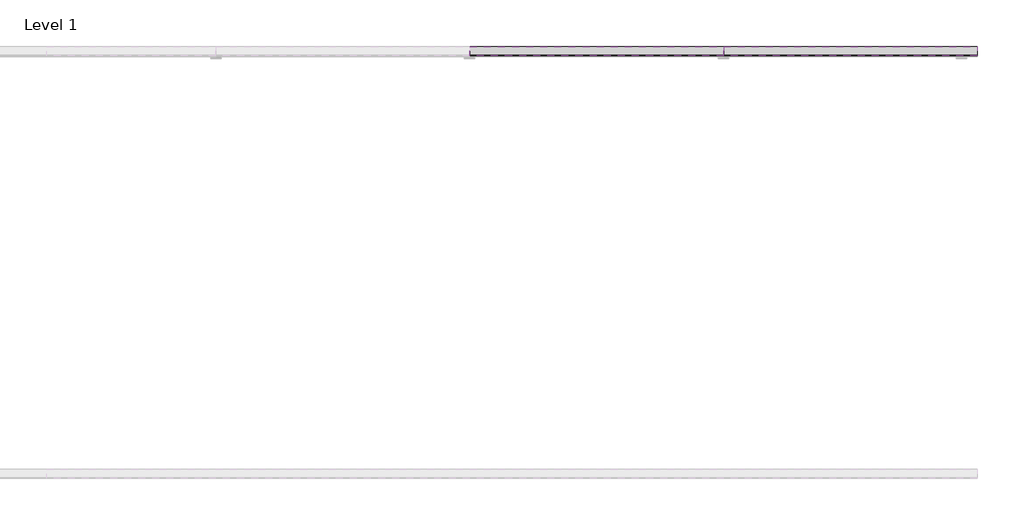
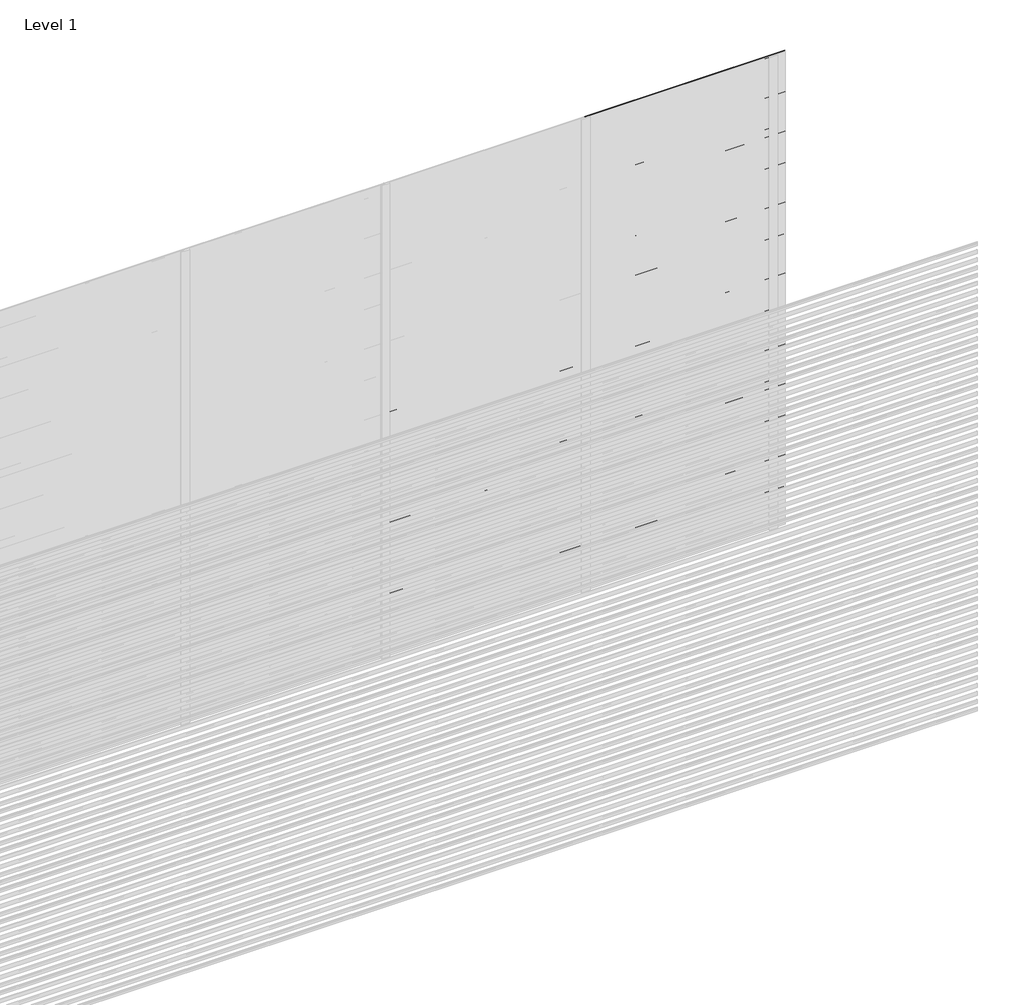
# One storey, part 16 of 16: 96 proxies.
"""IFC4 building model written with IfcOpenShell, lengths in millimetres."""

from ifc_helpers import new_model, si_unit, frame, origin, place, context, project, spatial, polyline, outline, extrude, element, save

model = new_model("IFC4")

# Units and contexts
model_context = context("Model", 3, world=origin())
ifc_project = project(units=[si_unit("LENGTHUNIT", "METRE", prefix="MILLI")], contexts=[model_context])

# Site, building, storey
site = spatial("IfcSite", under=ifc_project)
building = spatial("IfcBuilding", under=site)
storey = spatial("IfcBuildingStorey", under=building, Name="Level 1", Elevation=0.0)

# Proxies
placement = place(None, origin())
element("IfcBuildingElementProxy", 1, Name="Wall Sweeps", at=placement, inside=storey, context=model_context, shape_type="SweptSolid", body=[
    extrude(outline(polyline([(5.0, 1800.0), (5.0, 1789.6352854), (46.0, 1765.0), (46.0, 1750.0), (3.0, 1775.8370066), (3.0, 1800.0), (5.0, 1800.0)])), frame((3600.0, 0.0, 0.0), z_axis=(1.0, 0.0, 0.0), x_axis=(0.0, 1.0, 0.0)), (0.0, 0.0, 1.0), 1200.0),
])
element("IfcBuildingElementProxy", 2, Name="Wall Sweeps", at=placement, inside=storey, context=model_context, shape_type="SweptSolid", body=[
    extrude(outline(polyline([(5.0, 1750.0), (5.0, 1739.6352854), (46.0, 1715.0), (46.0, 1700.0), (3.0, 1725.8370066), (3.0, 1750.0), (5.0, 1750.0)])), frame((3600.0, 0.0, 0.0), z_axis=(1.0, 0.0, 0.0), x_axis=(0.0, 1.0, 0.0)), (0.0, 0.0, 1.0), 1200.0),
])
element("IfcBuildingElementProxy", 3, Name="Wall Sweeps", at=placement, inside=storey, context=model_context, shape_type="SweptSolid", body=[
    extrude(outline(polyline([(5.0, 1700.0), (5.0, 1689.6352854), (46.0, 1665.0), (46.0, 1650.0), (3.0, 1675.8370066), (3.0, 1700.0), (5.0, 1700.0)])), frame((3600.0, 0.0, 0.0), z_axis=(1.0, 0.0, 0.0), x_axis=(0.0, 1.0, 0.0)), (0.0, 0.0, 1.0), 1200.0),
])
element("IfcBuildingElementProxy", 4, Name="Wall Sweeps", at=placement, inside=storey, context=model_context, shape_type="SweptSolid", body=[
    extrude(outline(polyline([(5.0, 1650.0), (5.0, 1639.6352854), (46.0, 1615.0), (46.0, 1600.0), (3.0, 1625.8370066), (3.0, 1650.0), (5.0, 1650.0)])), frame((3600.0, 0.0, 0.0), z_axis=(1.0, 0.0, 0.0), x_axis=(0.0, 1.0, 0.0)), (0.0, 0.0, 1.0), 1200.0),
])
element("IfcBuildingElementProxy", 5, Name="Wall Sweeps", at=placement, inside=storey, context=model_context, shape_type="SweptSolid", body=[
    extrude(outline(polyline([(5.0, 1600.0), (5.0, 1589.6352854), (46.0, 1565.0), (46.0, 1550.0), (3.0, 1575.8370066), (3.0, 1600.0), (5.0, 1600.0)])), frame((3600.0, 0.0, 0.0), z_axis=(1.0, 0.0, 0.0), x_axis=(0.0, 1.0, 0.0)), (0.0, 0.0, 1.0), 1200.0),
])
element("IfcBuildingElementProxy", 6, Name="Wall Sweeps", at=placement, inside=storey, context=model_context, shape_type="SweptSolid", body=[
    extrude(outline(polyline([(5.0, 1550.0), (5.0, 1539.6352854), (46.0, 1515.0), (46.0, 1500.0), (3.0, 1525.8370066), (3.0, 1550.0), (5.0, 1550.0)])), frame((3600.0, 0.0, 0.0), z_axis=(1.0, 0.0, 0.0), x_axis=(0.0, 1.0, 0.0)), (0.0, 0.0, 1.0), 1200.0),
])
element("IfcBuildingElementProxy", 7, Name="Wall Sweeps", at=placement, inside=storey, context=model_context, shape_type="SweptSolid", body=[
    extrude(outline(polyline([(5.0, 1500.0), (5.0, 1489.6352854), (46.0, 1465.0), (46.0, 1450.0), (3.0, 1475.8370066), (3.0, 1500.0), (5.0, 1500.0)])), frame((3600.0, 0.0, 0.0), z_axis=(1.0, 0.0, 0.0), x_axis=(0.0, 1.0, 0.0)), (0.0, 0.0, 1.0), 1200.0),
])
element("IfcBuildingElementProxy", 8, Name="Wall Sweeps", at=placement, inside=storey, context=model_context, shape_type="SweptSolid", body=[
    extrude(outline(polyline([(5.0, 1450.0), (5.0, 1439.6352854), (46.0, 1415.0), (46.0, 1400.0), (3.0, 1425.8370066), (3.0, 1450.0), (5.0, 1450.0)])), frame((3600.0, 0.0, 0.0), z_axis=(1.0, 0.0, 0.0), x_axis=(0.0, 1.0, 0.0)), (0.0, 0.0, 1.0), 1200.0),
])
element("IfcBuildingElementProxy", 9, Name="Wall Sweeps", at=placement, inside=storey, context=model_context, shape_type="SweptSolid", body=[
    extrude(outline(polyline([(5.0, 1400.0), (5.0, 1389.6352854), (46.0, 1365.0), (46.0, 1350.0), (3.0, 1375.8370066), (3.0, 1400.0), (5.0, 1400.0)])), frame((3600.0, 0.0, 0.0), z_axis=(1.0, 0.0, 0.0), x_axis=(0.0, 1.0, 0.0)), (0.0, 0.0, 1.0), 1200.0),
])
element("IfcBuildingElementProxy", 10, Name="Wall Sweeps", at=placement, inside=storey, context=model_context, shape_type="SweptSolid", body=[
    extrude(outline(polyline([(5.0, 1350.0), (5.0, 1339.6352854), (46.0, 1315.0), (46.0, 1300.0), (3.0, 1325.8370066), (3.0, 1350.0), (5.0, 1350.0)])), frame((3600.0, 0.0, 0.0), z_axis=(1.0, 0.0, 0.0), x_axis=(0.0, 1.0, 0.0)), (0.0, 0.0, 1.0), 1200.0),
])
element("IfcBuildingElementProxy", 11, Name="Wall Sweeps", at=placement, inside=storey, context=model_context, shape_type="SweptSolid", body=[
    extrude(outline(polyline([(5.0, 1300.0), (5.0, 1289.6352854), (46.0, 1265.0), (46.0, 1250.0), (3.0, 1275.8370066), (3.0, 1300.0), (5.0, 1300.0)])), frame((3600.0, 0.0, 0.0), z_axis=(1.0, 0.0, 0.0), x_axis=(0.0, 1.0, 0.0)), (0.0, 0.0, 1.0), 1200.0),
])
element("IfcBuildingElementProxy", 12, Name="Wall Sweeps", at=placement, inside=storey, context=model_context, shape_type="SweptSolid", body=[
    extrude(outline(polyline([(5.0, 1250.0), (5.0, 1239.6352854), (46.0, 1215.0), (46.0, 1200.0), (3.0, 1225.8370066), (3.0, 1250.0), (5.0, 1250.0)])), frame((3600.0, 0.0, 0.0), z_axis=(1.0, 0.0, 0.0), x_axis=(0.0, 1.0, 0.0)), (0.0, 0.0, 1.0), 1200.0),
])
element("IfcBuildingElementProxy", 13, Name="Wall Sweeps", at=placement, inside=storey, context=model_context, shape_type="SweptSolid", body=[
    extrude(outline(polyline([(5.0, 1200.0), (5.0, 1189.6352854), (46.0, 1165.0), (46.0, 1150.0), (3.0, 1175.8370066), (3.0, 1200.0), (5.0, 1200.0)])), frame((3600.0, 0.0, 0.0), z_axis=(1.0, 0.0, 0.0), x_axis=(0.0, 1.0, 0.0)), (0.0, 0.0, 1.0), 1200.0),
])
element("IfcBuildingElementProxy", 14, Name="Wall Sweeps", at=placement, inside=storey, context=model_context, shape_type="SweptSolid", body=[
    extrude(outline(polyline([(5.0, 1150.0), (5.0, 1139.6352854), (46.0, 1115.0), (46.0, 1100.0), (3.0, 1125.8370066), (3.0, 1150.0), (5.0, 1150.0)])), frame((3600.0, 0.0, 0.0), z_axis=(1.0, 0.0, 0.0), x_axis=(0.0, 1.0, 0.0)), (0.0, 0.0, 1.0), 1200.0),
])
element("IfcBuildingElementProxy", 15, Name="Wall Sweeps", at=placement, inside=storey, context=model_context, shape_type="SweptSolid", body=[
    extrude(outline(polyline([(5.0, 1100.0), (5.0, 1089.6352854), (46.0, 1065.0), (46.0, 1050.0), (3.0, 1075.8370066), (3.0, 1100.0), (5.0, 1100.0)])), frame((3600.0, 0.0, 0.0), z_axis=(1.0, 0.0, 0.0), x_axis=(0.0, 1.0, 0.0)), (0.0, 0.0, 1.0), 1200.0),
])
element("IfcBuildingElementProxy", 16, Name="Wall Sweeps", at=placement, inside=storey, context=model_context, shape_type="SweptSolid", body=[
    extrude(outline(polyline([(5.0, 1050.0), (5.0, 1039.6352854), (46.0, 1015.0), (46.0, 1000.0), (3.0, 1025.8370066), (3.0, 1050.0), (5.0, 1050.0)])), frame((3600.0, 0.0, 0.0), z_axis=(1.0, 0.0, 0.0), x_axis=(0.0, 1.0, 0.0)), (0.0, 0.0, 1.0), 1200.0),
])
element("IfcBuildingElementProxy", 17, Name="Wall Sweeps", at=placement, inside=storey, context=model_context, shape_type="SweptSolid", body=[
    extrude(outline(polyline([(5.0, 1000.0), (5.0, 989.6352854), (46.0, 965.0), (46.0, 950.0), (3.0, 975.8370066), (3.0, 1000.0), (5.0, 1000.0)])), frame((3600.0, 0.0, 0.0), z_axis=(1.0, 0.0, 0.0), x_axis=(0.0, 1.0, 0.0)), (0.0, 0.0, 1.0), 1200.0),
])
element("IfcBuildingElementProxy", 18, Name="Wall Sweeps", at=placement, inside=storey, context=model_context, shape_type="SweptSolid", body=[
    extrude(outline(polyline([(5.0, 950.0), (5.0, 939.6352854), (46.0, 915.0), (46.0, 900.0), (3.0, 925.8370066), (3.0, 950.0), (5.0, 950.0)])), frame((3600.0, 0.0, 0.0), z_axis=(1.0, 0.0, 0.0), x_axis=(0.0, 1.0, 0.0)), (0.0, 0.0, 1.0), 1200.0),
])
element("IfcBuildingElementProxy", 19, Name="Wall Sweeps", at=placement, inside=storey, context=model_context, shape_type="SweptSolid", body=[
    extrude(outline(polyline([(5.0, 900.0), (5.0, 889.6352854), (46.0, 865.0), (46.0, 850.0), (3.0, 875.8370066), (3.0, 900.0), (5.0, 900.0)])), frame((3600.0, 0.0, 0.0), z_axis=(1.0, 0.0, 0.0), x_axis=(0.0, 1.0, 0.0)), (0.0, 0.0, 1.0), 1200.0),
])
element("IfcBuildingElementProxy", 20, Name="Wall Sweeps", at=placement, inside=storey, context=model_context, shape_type="SweptSolid", body=[
    extrude(outline(polyline([(5.0, 850.0), (5.0, 839.6352854), (46.0, 815.0), (46.0, 800.0), (3.0, 825.8370066), (3.0, 850.0), (5.0, 850.0)])), frame((3600.0, 0.0, 0.0), z_axis=(1.0, 0.0, 0.0), x_axis=(0.0, 1.0, 0.0)), (0.0, 0.0, 1.0), 1200.0),
])
element("IfcBuildingElementProxy", 21, Name="Wall Sweeps", at=placement, inside=storey, context=model_context, shape_type="SweptSolid", body=[
    extrude(outline(polyline([(5.0, 800.0), (5.0, 789.6352854), (46.0, 765.0), (46.0, 750.0), (3.0, 775.8370066), (3.0, 800.0), (5.0, 800.0)])), frame((3600.0, 0.0, 0.0), z_axis=(1.0, 0.0, 0.0), x_axis=(0.0, 1.0, 0.0)), (0.0, 0.0, 1.0), 1200.0),
])
element("IfcBuildingElementProxy", 22, Name="Wall Sweeps", at=placement, inside=storey, context=model_context, shape_type="SweptSolid", body=[
    extrude(outline(polyline([(5.0, 750.0), (5.0, 739.6352854), (46.0, 715.0), (46.0, 700.0), (3.0, 725.8370066), (3.0, 750.0), (5.0, 750.0)])), frame((3600.0, 0.0, 0.0), z_axis=(1.0, 0.0, 0.0), x_axis=(0.0, 1.0, 0.0)), (0.0, 0.0, 1.0), 1200.0),
])
element("IfcBuildingElementProxy", 23, Name="Wall Sweeps", at=placement, inside=storey, context=model_context, shape_type="SweptSolid", body=[
    extrude(outline(polyline([(5.0, 700.0), (5.0, 689.6352854), (46.0, 665.0), (46.0, 650.0), (3.0, 675.8370066), (3.0, 700.0), (5.0, 700.0)])), frame((3600.0, 0.0, 0.0), z_axis=(1.0, 0.0, 0.0), x_axis=(0.0, 1.0, 0.0)), (0.0, 0.0, 1.0), 1200.0),
])
element("IfcBuildingElementProxy", 24, Name="Wall Sweeps", at=placement, inside=storey, context=model_context, shape_type="SweptSolid", body=[
    extrude(outline(polyline([(5.0, 650.0), (5.0, 639.6352854), (46.0, 615.0), (46.0, 600.0), (3.0, 625.8370066), (3.0, 650.0), (5.0, 650.0)])), frame((3600.0, 0.0, 0.0), z_axis=(1.0, 0.0, 0.0), x_axis=(0.0, 1.0, 0.0)), (0.0, 0.0, 1.0), 1200.0),
])
element("IfcBuildingElementProxy", 25, Name="Wall Sweeps", at=placement, inside=storey, context=model_context, shape_type="SweptSolid", body=[
    extrude(outline(polyline([(5.0, 600.0), (5.0, 589.6352854), (46.0, 565.0), (46.0, 550.0), (3.0, 575.8370066), (3.0, 600.0), (5.0, 600.0)])), frame((3600.0, 0.0, 0.0), z_axis=(1.0, 0.0, 0.0), x_axis=(0.0, 1.0, 0.0)), (0.0, 0.0, 1.0), 1200.0),
])
element("IfcBuildingElementProxy", 26, Name="Wall Sweeps", at=placement, inside=storey, context=model_context, shape_type="SweptSolid", body=[
    extrude(outline(polyline([(5.0, 550.0), (5.0, 539.6352854), (46.0, 515.0), (46.0, 500.0), (3.0, 525.8370066), (3.0, 550.0), (5.0, 550.0)])), frame((3600.0, 0.0, 0.0), z_axis=(1.0, 0.0, 0.0), x_axis=(0.0, 1.0, 0.0)), (0.0, 0.0, 1.0), 1200.0),
])
element("IfcBuildingElementProxy", 27, Name="Wall Sweeps", at=placement, inside=storey, context=model_context, shape_type="SweptSolid", body=[
    extrude(outline(polyline([(5.0, 500.0), (5.0, 489.6352854), (46.0, 465.0), (46.0, 450.0), (3.0, 475.8370066), (3.0, 500.0), (5.0, 500.0)])), frame((3600.0, 0.0, 0.0), z_axis=(1.0, 0.0, 0.0), x_axis=(0.0, 1.0, 0.0)), (0.0, 0.0, 1.0), 1200.0),
])
element("IfcBuildingElementProxy", 28, Name="Wall Sweeps", at=placement, inside=storey, context=model_context, shape_type="SweptSolid", body=[
    extrude(outline(polyline([(5.0, 450.0), (5.0, 439.6352854), (46.0, 415.0), (46.0, 400.0), (3.0, 425.8370066), (3.0, 450.0), (5.0, 450.0)])), frame((3600.0, 0.0, 0.0), z_axis=(1.0, 0.0, 0.0), x_axis=(0.0, 1.0, 0.0)), (0.0, 0.0, 1.0), 1200.0),
])
element("IfcBuildingElementProxy", 29, Name="Wall Sweeps", at=placement, inside=storey, context=model_context, shape_type="SweptSolid", body=[
    extrude(outline(polyline([(5.0, 400.0), (5.0, 389.6352854), (46.0, 365.0), (46.0, 350.0), (3.0, 375.8370066), (3.0, 400.0), (5.0, 400.0)])), frame((3600.0, 0.0, 0.0), z_axis=(1.0, 0.0, 0.0), x_axis=(0.0, 1.0, 0.0)), (0.0, 0.0, 1.0), 1200.0),
])
element("IfcBuildingElementProxy", 30, Name="Wall Sweeps", at=placement, inside=storey, context=model_context, shape_type="SweptSolid", body=[
    extrude(outline(polyline([(5.0, 350.0), (5.0, 339.6352854), (46.0, 315.0), (46.0, 300.0), (3.0, 325.8370066), (3.0, 350.0), (5.0, 350.0)])), frame((3600.0, 0.0, 0.0), z_axis=(1.0, 0.0, 0.0), x_axis=(0.0, 1.0, 0.0)), (0.0, 0.0, 1.0), 1200.0),
])
element("IfcBuildingElementProxy", 31, Name="Wall Sweeps", at=placement, inside=storey, context=model_context, shape_type="SweptSolid", body=[
    extrude(outline(polyline([(5.0, 300.0), (5.0, 289.6352854), (46.0, 265.0), (46.0, 250.0), (3.0, 275.8370066), (3.0, 300.0), (5.0, 300.0)])), frame((3600.0, 0.0, 0.0), z_axis=(1.0, 0.0, 0.0), x_axis=(0.0, 1.0, 0.0)), (0.0, 0.0, 1.0), 1200.0),
])
element("IfcBuildingElementProxy", 32, Name="Wall Sweeps", at=placement, inside=storey, context=model_context, shape_type="SweptSolid", body=[
    extrude(outline(polyline([(5.0, 250.0), (5.0, 239.6352854), (46.0, 215.0), (46.0, 200.0), (3.0, 225.8370066), (3.0, 250.0), (5.0, 250.0)])), frame((3600.0, 0.0, 0.0), z_axis=(1.0, 0.0, 0.0), x_axis=(0.0, 1.0, 0.0)), (0.0, 0.0, 1.0), 1200.0),
])
element("IfcBuildingElementProxy", 33, Name="Wall Sweeps", at=placement, inside=storey, context=model_context, shape_type="SweptSolid", body=[
    extrude(outline(polyline([(5.0, 200.0), (5.0, 189.6352854), (46.0, 165.0), (46.0, 150.0), (3.0, 175.8370066), (3.0, 200.0), (5.0, 200.0)])), frame((3600.0, 0.0, 0.0), z_axis=(1.0, 0.0, 0.0), x_axis=(0.0, 1.0, 0.0)), (0.0, 0.0, 1.0), 1200.0),
])
element("IfcBuildingElementProxy", 34, Name="Wall Sweeps", at=placement, inside=storey, context=model_context, shape_type="SweptSolid", body=[
    extrude(outline(polyline([(5.0, 150.0), (5.0, 139.6352854), (46.0, 115.0), (46.0, 100.0), (3.0, 125.8370066), (3.0, 150.0), (5.0, 150.0)])), frame((3600.0, 0.0, 0.0), z_axis=(1.0, 0.0, 0.0), x_axis=(0.0, 1.0, 0.0)), (0.0, 0.0, 1.0), 1200.0),
])
element("IfcBuildingElementProxy", 35, Name="Wall Sweeps", at=placement, inside=storey, context=model_context, shape_type="SweptSolid", body=[
    extrude(outline(polyline([(5.0, 100.0), (5.0, 89.6352854), (46.0, 65.0), (46.0, 50.0), (3.0, 75.8370066), (3.0, 100.0), (5.0, 100.0)])), frame((3600.0, 0.0, 0.0), z_axis=(1.0, 0.0, 0.0), x_axis=(0.0, 1.0, 0.0)), (0.0, 0.0, 1.0), 1200.0),
])
element("IfcBuildingElementProxy", 36, Name="Wall Sweeps", at=placement, inside=storey, context=model_context, shape_type="SweptSolid", body=[
    extrude(outline(polyline([(5.0, 50.0), (5.0, 39.6352854), (46.0, 15.0), (46.0, 0.0), (3.0, 25.8370066), (3.0, 50.0), (5.0, 50.0)])), frame((3600.0, 0.0, 0.0), z_axis=(1.0, 0.0, 0.0), x_axis=(0.0, 1.0, 0.0)), (0.0, 0.0, 1.0), 1200.0),
])
element("IfcBuildingElementProxy", 37, Name="Wall Sweeps", at=placement, inside=storey, context=model_context, shape_type="SweptSolid", body=[
    extrude(outline(polyline([(5.0, 3000.0), (5.0, 2989.6352854), (46.0, 2965.0), (46.0, 2950.0), (3.0, 2975.8370066), (3.0, 3000.0), (5.0, 3000.0)])), frame((4800.0, 0.0, 0.0), z_axis=(1.0, 0.0, 0.0), x_axis=(0.0, 1.0, 0.0)), (0.0, 0.0, 1.0), 1200.0),
])
element("IfcBuildingElementProxy", 38, Name="Wall Sweeps", at=placement, inside=storey, context=model_context, shape_type="SweptSolid", body=[
    extrude(outline(polyline([(5.0, 2950.0), (5.0, 2939.6352854), (46.0, 2915.0), (46.0, 2900.0), (3.0, 2925.8370066), (3.0, 2950.0), (5.0, 2950.0)])), frame((4800.0, 0.0, 0.0), z_axis=(1.0, 0.0, 0.0), x_axis=(0.0, 1.0, 0.0)), (0.0, 0.0, 1.0), 1200.0),
])
element("IfcBuildingElementProxy", 39, Name="Wall Sweeps", at=placement, inside=storey, context=model_context, shape_type="SweptSolid", body=[
    extrude(outline(polyline([(5.0, 2900.0), (5.0, 2889.6352854), (46.0, 2865.0), (46.0, 2850.0), (3.0, 2875.8370066), (3.0, 2900.0), (5.0, 2900.0)])), frame((4800.0, 0.0, 0.0), z_axis=(1.0, 0.0, 0.0), x_axis=(0.0, 1.0, 0.0)), (0.0, 0.0, 1.0), 1200.0),
])
element("IfcBuildingElementProxy", 40, Name="Wall Sweeps", at=placement, inside=storey, context=model_context, shape_type="SweptSolid", body=[
    extrude(outline(polyline([(5.0, 2850.0), (5.0, 2839.6352854), (46.0, 2815.0), (46.0, 2800.0), (3.0, 2825.8370066), (3.0, 2850.0), (5.0, 2850.0)])), frame((4800.0, 0.0, 0.0), z_axis=(1.0, 0.0, 0.0), x_axis=(0.0, 1.0, 0.0)), (0.0, 0.0, 1.0), 1200.0),
])
element("IfcBuildingElementProxy", 41, Name="Wall Sweeps", at=placement, inside=storey, context=model_context, shape_type="SweptSolid", body=[
    extrude(outline(polyline([(5.0, 2800.0), (5.0, 2789.6352854), (46.0, 2765.0), (46.0, 2750.0), (3.0, 2775.8370066), (3.0, 2800.0), (5.0, 2800.0)])), frame((4800.0, 0.0, 0.0), z_axis=(1.0, 0.0, 0.0), x_axis=(0.0, 1.0, 0.0)), (0.0, 0.0, 1.0), 1200.0),
])
element("IfcBuildingElementProxy", 42, Name="Wall Sweeps", at=placement, inside=storey, context=model_context, shape_type="SweptSolid", body=[
    extrude(outline(polyline([(5.0, 2750.0), (5.0, 2739.6352854), (46.0, 2715.0), (46.0, 2700.0), (3.0, 2725.8370066), (3.0, 2750.0), (5.0, 2750.0)])), frame((4800.0, 0.0, 0.0), z_axis=(1.0, 0.0, 0.0), x_axis=(0.0, 1.0, 0.0)), (0.0, 0.0, 1.0), 1200.0),
])
element("IfcBuildingElementProxy", 43, Name="Wall Sweeps", at=placement, inside=storey, context=model_context, shape_type="SweptSolid", body=[
    extrude(outline(polyline([(5.0, 2700.0), (5.0, 2689.6352854), (46.0, 2665.0), (46.0, 2650.0), (3.0, 2675.8370066), (3.0, 2700.0), (5.0, 2700.0)])), frame((4800.0, 0.0, 0.0), z_axis=(1.0, 0.0, 0.0), x_axis=(0.0, 1.0, 0.0)), (0.0, 0.0, 1.0), 1200.0),
])
element("IfcBuildingElementProxy", 44, Name="Wall Sweeps", at=placement, inside=storey, context=model_context, shape_type="SweptSolid", body=[
    extrude(outline(polyline([(5.0, 2650.0), (5.0, 2639.6352854), (46.0, 2615.0), (46.0, 2600.0), (3.0, 2625.8370066), (3.0, 2650.0), (5.0, 2650.0)])), frame((4800.0, 0.0, 0.0), z_axis=(1.0, 0.0, 0.0), x_axis=(0.0, 1.0, 0.0)), (0.0, 0.0, 1.0), 1200.0),
])
element("IfcBuildingElementProxy", 45, Name="Wall Sweeps", at=placement, inside=storey, context=model_context, shape_type="SweptSolid", body=[
    extrude(outline(polyline([(5.0, 2600.0), (5.0, 2589.6352854), (46.0, 2565.0), (46.0, 2550.0), (3.0, 2575.8370066), (3.0, 2600.0), (5.0, 2600.0)])), frame((4800.0, 0.0, 0.0), z_axis=(1.0, 0.0, 0.0), x_axis=(0.0, 1.0, 0.0)), (0.0, 0.0, 1.0), 1200.0),
])
element("IfcBuildingElementProxy", 46, Name="Wall Sweeps", at=placement, inside=storey, context=model_context, shape_type="SweptSolid", body=[
    extrude(outline(polyline([(5.0, 2550.0), (5.0, 2539.6352854), (46.0, 2515.0), (46.0, 2500.0), (3.0, 2525.8370066), (3.0, 2550.0), (5.0, 2550.0)])), frame((4800.0, 0.0, 0.0), z_axis=(1.0, 0.0, 0.0), x_axis=(0.0, 1.0, 0.0)), (0.0, 0.0, 1.0), 1200.0),
])
element("IfcBuildingElementProxy", 47, Name="Wall Sweeps", at=placement, inside=storey, context=model_context, shape_type="SweptSolid", body=[
    extrude(outline(polyline([(5.0, 2500.0), (5.0, 2489.6352854), (46.0, 2465.0), (46.0, 2450.0), (3.0, 2475.8370066), (3.0, 2500.0), (5.0, 2500.0)])), frame((4800.0, 0.0, 0.0), z_axis=(1.0, 0.0, 0.0), x_axis=(0.0, 1.0, 0.0)), (0.0, 0.0, 1.0), 1200.0),
])
element("IfcBuildingElementProxy", 48, Name="Wall Sweeps", at=placement, inside=storey, context=model_context, shape_type="SweptSolid", body=[
    extrude(outline(polyline([(5.0, 2450.0), (5.0, 2439.6352854), (46.0, 2415.0), (46.0, 2400.0), (3.0, 2425.8370066), (3.0, 2450.0), (5.0, 2450.0)])), frame((4800.0, 0.0, 0.0), z_axis=(1.0, 0.0, 0.0), x_axis=(0.0, 1.0, 0.0)), (0.0, 0.0, 1.0), 1200.0),
])
element("IfcBuildingElementProxy", 49, Name="Wall Sweeps", at=placement, inside=storey, context=model_context, shape_type="SweptSolid", body=[
    extrude(outline(polyline([(5.0, 2400.0), (5.0, 2389.6352854), (46.0, 2365.0), (46.0, 2350.0), (3.0, 2375.8370066), (3.0, 2400.0), (5.0, 2400.0)])), frame((4800.0, 0.0, 0.0), z_axis=(1.0, 0.0, 0.0), x_axis=(0.0, 1.0, 0.0)), (0.0, 0.0, 1.0), 1200.0),
])
element("IfcBuildingElementProxy", 50, Name="Wall Sweeps", at=placement, inside=storey, context=model_context, shape_type="SweptSolid", body=[
    extrude(outline(polyline([(5.0, 2350.0), (5.0, 2339.6352854), (46.0, 2315.0), (46.0, 2300.0), (3.0, 2325.8370066), (3.0, 2350.0), (5.0, 2350.0)])), frame((4800.0, 0.0, 0.0), z_axis=(1.0, 0.0, 0.0), x_axis=(0.0, 1.0, 0.0)), (0.0, 0.0, 1.0), 1200.0),
])
element("IfcBuildingElementProxy", 51, Name="Wall Sweeps", at=placement, inside=storey, context=model_context, shape_type="SweptSolid", body=[
    extrude(outline(polyline([(5.0, 2300.0), (5.0, 2289.6352854), (46.0, 2265.0), (46.0, 2250.0), (3.0, 2275.8370066), (3.0, 2300.0), (5.0, 2300.0)])), frame((4800.0, 0.0, 0.0), z_axis=(1.0, 0.0, 0.0), x_axis=(0.0, 1.0, 0.0)), (0.0, 0.0, 1.0), 1200.0),
])
element("IfcBuildingElementProxy", 52, Name="Wall Sweeps", at=placement, inside=storey, context=model_context, shape_type="SweptSolid", body=[
    extrude(outline(polyline([(5.0, 2250.0), (5.0, 2239.6352854), (46.0, 2215.0), (46.0, 2200.0), (3.0, 2225.8370066), (3.0, 2250.0), (5.0, 2250.0)])), frame((4800.0, 0.0, 0.0), z_axis=(1.0, 0.0, 0.0), x_axis=(0.0, 1.0, 0.0)), (0.0, 0.0, 1.0), 1200.0),
])
element("IfcBuildingElementProxy", 53, Name="Wall Sweeps", at=placement, inside=storey, context=model_context, shape_type="SweptSolid", body=[
    extrude(outline(polyline([(5.0, 2200.0), (5.0, 2189.6352854), (46.0, 2165.0), (46.0, 2150.0), (3.0, 2175.8370066), (3.0, 2200.0), (5.0, 2200.0)])), frame((4800.0, 0.0, 0.0), z_axis=(1.0, 0.0, 0.0), x_axis=(0.0, 1.0, 0.0)), (0.0, 0.0, 1.0), 1200.0),
])
element("IfcBuildingElementProxy", 54, Name="Wall Sweeps", at=placement, inside=storey, context=model_context, shape_type="SweptSolid", body=[
    extrude(outline(polyline([(5.0, 2150.0), (5.0, 2139.6352854), (46.0, 2115.0), (46.0, 2100.0), (3.0, 2125.8370066), (3.0, 2150.0), (5.0, 2150.0)])), frame((4800.0, 0.0, 0.0), z_axis=(1.0, 0.0, 0.0), x_axis=(0.0, 1.0, 0.0)), (0.0, 0.0, 1.0), 1200.0),
])
element("IfcBuildingElementProxy", 55, Name="Wall Sweeps", at=placement, inside=storey, context=model_context, shape_type="SweptSolid", body=[
    extrude(outline(polyline([(5.0, 2100.0), (5.0, 2089.6352854), (46.0, 2065.0), (46.0, 2050.0), (3.0, 2075.8370066), (3.0, 2100.0), (5.0, 2100.0)])), frame((4800.0, 0.0, 0.0), z_axis=(1.0, 0.0, 0.0), x_axis=(0.0, 1.0, 0.0)), (0.0, 0.0, 1.0), 1200.0),
])
element("IfcBuildingElementProxy", 56, Name="Wall Sweeps", at=placement, inside=storey, context=model_context, shape_type="SweptSolid", body=[
    extrude(outline(polyline([(5.0, 2050.0), (5.0, 2039.6352854), (46.0, 2015.0), (46.0, 2000.0), (3.0, 2025.8370066), (3.0, 2050.0), (5.0, 2050.0)])), frame((4800.0, 0.0, 0.0), z_axis=(1.0, 0.0, 0.0), x_axis=(0.0, 1.0, 0.0)), (0.0, 0.0, 1.0), 1200.0),
])
element("IfcBuildingElementProxy", 57, Name="Wall Sweeps", at=placement, inside=storey, context=model_context, shape_type="SweptSolid", body=[
    extrude(outline(polyline([(5.0, 2000.0), (5.0, 1989.6352854), (46.0, 1965.0), (46.0, 1950.0), (3.0, 1975.8370066), (3.0, 2000.0), (5.0, 2000.0)])), frame((4800.0, 0.0, 0.0), z_axis=(1.0, 0.0, 0.0), x_axis=(0.0, 1.0, 0.0)), (0.0, 0.0, 1.0), 1200.0),
])
element("IfcBuildingElementProxy", 58, Name="Wall Sweeps", at=placement, inside=storey, context=model_context, shape_type="SweptSolid", body=[
    extrude(outline(polyline([(5.0, 1950.0), (5.0, 1939.6352854), (46.0, 1915.0), (46.0, 1900.0), (3.0, 1925.8370066), (3.0, 1950.0), (5.0, 1950.0)])), frame((4800.0, 0.0, 0.0), z_axis=(1.0, 0.0, 0.0), x_axis=(0.0, 1.0, 0.0)), (0.0, 0.0, 1.0), 1200.0),
])
element("IfcBuildingElementProxy", 59, Name="Wall Sweeps", at=placement, inside=storey, context=model_context, shape_type="SweptSolid", body=[
    extrude(outline(polyline([(5.0, 1900.0), (5.0, 1889.6352854), (46.0, 1865.0), (46.0, 1850.0), (3.0, 1875.8370066), (3.0, 1900.0), (5.0, 1900.0)])), frame((4800.0, 0.0, 0.0), z_axis=(1.0, 0.0, 0.0), x_axis=(0.0, 1.0, 0.0)), (0.0, 0.0, 1.0), 1200.0),
])
element("IfcBuildingElementProxy", 60, Name="Wall Sweeps", at=placement, inside=storey, context=model_context, shape_type="SweptSolid", body=[
    extrude(outline(polyline([(5.0, 1850.0), (5.0, 1839.6352854), (46.0, 1815.0), (46.0, 1800.0), (3.0, 1825.8370066), (3.0, 1850.0), (5.0, 1850.0)])), frame((4800.0, 0.0, 0.0), z_axis=(1.0, 0.0, 0.0), x_axis=(0.0, 1.0, 0.0)), (0.0, 0.0, 1.0), 1200.0),
])
element("IfcBuildingElementProxy", 61, Name="Wall Sweeps", at=placement, inside=storey, context=model_context, shape_type="SweptSolid", body=[
    extrude(outline(polyline([(5.0, 1800.0), (5.0, 1789.6352854), (46.0, 1765.0), (46.0, 1750.0), (3.0, 1775.8370066), (3.0, 1800.0), (5.0, 1800.0)])), frame((4800.0, 0.0, 0.0), z_axis=(1.0, 0.0, 0.0), x_axis=(0.0, 1.0, 0.0)), (0.0, 0.0, 1.0), 1200.0),
])
element("IfcBuildingElementProxy", 62, Name="Wall Sweeps", at=placement, inside=storey, context=model_context, shape_type="SweptSolid", body=[
    extrude(outline(polyline([(5.0, 1750.0), (5.0, 1739.6352854), (46.0, 1715.0), (46.0, 1700.0), (3.0, 1725.8370066), (3.0, 1750.0), (5.0, 1750.0)])), frame((4800.0, 0.0, 0.0), z_axis=(1.0, 0.0, 0.0), x_axis=(0.0, 1.0, 0.0)), (0.0, 0.0, 1.0), 1200.0),
])
element("IfcBuildingElementProxy", 63, Name="Wall Sweeps", at=placement, inside=storey, context=model_context, shape_type="SweptSolid", body=[
    extrude(outline(polyline([(5.0, 1700.0), (5.0, 1689.6352854), (46.0, 1665.0), (46.0, 1650.0), (3.0, 1675.8370066), (3.0, 1700.0), (5.0, 1700.0)])), frame((4800.0, 0.0, 0.0), z_axis=(1.0, 0.0, 0.0), x_axis=(0.0, 1.0, 0.0)), (0.0, 0.0, 1.0), 1200.0),
])
element("IfcBuildingElementProxy", 64, Name="Wall Sweeps", at=placement, inside=storey, context=model_context, shape_type="SweptSolid", body=[
    extrude(outline(polyline([(5.0, 1650.0), (5.0, 1639.6352854), (46.0, 1615.0), (46.0, 1600.0), (3.0, 1625.8370066), (3.0, 1650.0), (5.0, 1650.0)])), frame((4800.0, 0.0, 0.0), z_axis=(1.0, 0.0, 0.0), x_axis=(0.0, 1.0, 0.0)), (0.0, 0.0, 1.0), 1200.0),
])
element("IfcBuildingElementProxy", 65, Name="Wall Sweeps", at=placement, inside=storey, context=model_context, shape_type="SweptSolid", body=[
    extrude(outline(polyline([(5.0, 1600.0), (5.0, 1589.6352854), (46.0, 1565.0), (46.0, 1550.0), (3.0, 1575.8370066), (3.0, 1600.0), (5.0, 1600.0)])), frame((4800.0, 0.0, 0.0), z_axis=(1.0, 0.0, 0.0), x_axis=(0.0, 1.0, 0.0)), (0.0, 0.0, 1.0), 1200.0),
])
element("IfcBuildingElementProxy", 66, Name="Wall Sweeps", at=placement, inside=storey, context=model_context, shape_type="SweptSolid", body=[
    extrude(outline(polyline([(5.0, 1550.0), (5.0, 1539.6352854), (46.0, 1515.0), (46.0, 1500.0), (3.0, 1525.8370066), (3.0, 1550.0), (5.0, 1550.0)])), frame((4800.0, 0.0, 0.0), z_axis=(1.0, 0.0, 0.0), x_axis=(0.0, 1.0, 0.0)), (0.0, 0.0, 1.0), 1200.0),
])
element("IfcBuildingElementProxy", 67, Name="Wall Sweeps", at=placement, inside=storey, context=model_context, shape_type="SweptSolid", body=[
    extrude(outline(polyline([(5.0, 1500.0), (5.0, 1489.6352854), (46.0, 1465.0), (46.0, 1450.0), (3.0, 1475.8370066), (3.0, 1500.0), (5.0, 1500.0)])), frame((4800.0, 0.0, 0.0), z_axis=(1.0, 0.0, 0.0), x_axis=(0.0, 1.0, 0.0)), (0.0, 0.0, 1.0), 1200.0),
])
element("IfcBuildingElementProxy", 68, Name="Wall Sweeps", at=placement, inside=storey, context=model_context, shape_type="SweptSolid", body=[
    extrude(outline(polyline([(5.0, 1450.0), (5.0, 1439.6352854), (46.0, 1415.0), (46.0, 1400.0), (3.0, 1425.8370066), (3.0, 1450.0), (5.0, 1450.0)])), frame((4800.0, 0.0, 0.0), z_axis=(1.0, 0.0, 0.0), x_axis=(0.0, 1.0, 0.0)), (0.0, 0.0, 1.0), 1200.0),
])
element("IfcBuildingElementProxy", 69, Name="Wall Sweeps", at=placement, inside=storey, context=model_context, shape_type="SweptSolid", body=[
    extrude(outline(polyline([(5.0, 1400.0), (5.0, 1389.6352854), (46.0, 1365.0), (46.0, 1350.0), (3.0, 1375.8370066), (3.0, 1400.0), (5.0, 1400.0)])), frame((4800.0, 0.0, 0.0), z_axis=(1.0, 0.0, 0.0), x_axis=(0.0, 1.0, 0.0)), (0.0, 0.0, 1.0), 1200.0),
])
element("IfcBuildingElementProxy", 70, Name="Wall Sweeps", at=placement, inside=storey, context=model_context, shape_type="SweptSolid", body=[
    extrude(outline(polyline([(5.0, 1350.0), (5.0, 1339.6352854), (46.0, 1315.0), (46.0, 1300.0), (3.0, 1325.8370066), (3.0, 1350.0), (5.0, 1350.0)])), frame((4800.0, 0.0, 0.0), z_axis=(1.0, 0.0, 0.0), x_axis=(0.0, 1.0, 0.0)), (0.0, 0.0, 1.0), 1200.0),
])
element("IfcBuildingElementProxy", 71, Name="Wall Sweeps", at=placement, inside=storey, context=model_context, shape_type="SweptSolid", body=[
    extrude(outline(polyline([(5.0, 1300.0), (5.0, 1289.6352854), (46.0, 1265.0), (46.0, 1250.0), (3.0, 1275.8370066), (3.0, 1300.0), (5.0, 1300.0)])), frame((4800.0, 0.0, 0.0), z_axis=(1.0, 0.0, 0.0), x_axis=(0.0, 1.0, 0.0)), (0.0, 0.0, 1.0), 1200.0),
])
element("IfcBuildingElementProxy", 72, Name="Wall Sweeps", at=placement, inside=storey, context=model_context, shape_type="SweptSolid", body=[
    extrude(outline(polyline([(5.0, 1250.0), (5.0, 1239.6352854), (46.0, 1215.0), (46.0, 1200.0), (3.0, 1225.8370066), (3.0, 1250.0), (5.0, 1250.0)])), frame((4800.0, 0.0, 0.0), z_axis=(1.0, 0.0, 0.0), x_axis=(0.0, 1.0, 0.0)), (0.0, 0.0, 1.0), 1200.0),
])
element("IfcBuildingElementProxy", 73, Name="Wall Sweeps", at=placement, inside=storey, context=model_context, shape_type="SweptSolid", body=[
    extrude(outline(polyline([(5.0, 1200.0), (5.0, 1189.6352854), (46.0, 1165.0), (46.0, 1150.0), (3.0, 1175.8370066), (3.0, 1200.0), (5.0, 1200.0)])), frame((4800.0, 0.0, 0.0), z_axis=(1.0, 0.0, 0.0), x_axis=(0.0, 1.0, 0.0)), (0.0, 0.0, 1.0), 1200.0),
])
element("IfcBuildingElementProxy", 74, Name="Wall Sweeps", at=placement, inside=storey, context=model_context, shape_type="SweptSolid", body=[
    extrude(outline(polyline([(5.0, 1150.0), (5.0, 1139.6352854), (46.0, 1115.0), (46.0, 1100.0), (3.0, 1125.8370066), (3.0, 1150.0), (5.0, 1150.0)])), frame((4800.0, 0.0, 0.0), z_axis=(1.0, 0.0, 0.0), x_axis=(0.0, 1.0, 0.0)), (0.0, 0.0, 1.0), 1200.0),
])
element("IfcBuildingElementProxy", 75, Name="Wall Sweeps", at=placement, inside=storey, context=model_context, shape_type="SweptSolid", body=[
    extrude(outline(polyline([(5.0, 1100.0), (5.0, 1089.6352854), (46.0, 1065.0), (46.0, 1050.0), (3.0, 1075.8370066), (3.0, 1100.0), (5.0, 1100.0)])), frame((4800.0, 0.0, 0.0), z_axis=(1.0, 0.0, 0.0), x_axis=(0.0, 1.0, 0.0)), (0.0, 0.0, 1.0), 1200.0),
])
element("IfcBuildingElementProxy", 76, Name="Wall Sweeps", at=placement, inside=storey, context=model_context, shape_type="SweptSolid", body=[
    extrude(outline(polyline([(5.0, 1050.0), (5.0, 1039.6352854), (46.0, 1015.0), (46.0, 1000.0), (3.0, 1025.8370066), (3.0, 1050.0), (5.0, 1050.0)])), frame((4800.0, 0.0, 0.0), z_axis=(1.0, 0.0, 0.0), x_axis=(0.0, 1.0, 0.0)), (0.0, 0.0, 1.0), 1200.0),
])
element("IfcBuildingElementProxy", 77, Name="Wall Sweeps", at=placement, inside=storey, context=model_context, shape_type="SweptSolid", body=[
    extrude(outline(polyline([(5.0, 1000.0), (5.0, 989.6352854), (46.0, 965.0), (46.0, 950.0), (3.0, 975.8370066), (3.0, 1000.0), (5.0, 1000.0)])), frame((4800.0, 0.0, 0.0), z_axis=(1.0, 0.0, 0.0), x_axis=(0.0, 1.0, 0.0)), (0.0, 0.0, 1.0), 1200.0),
])
element("IfcBuildingElementProxy", 78, Name="Wall Sweeps", at=placement, inside=storey, context=model_context, shape_type="SweptSolid", body=[
    extrude(outline(polyline([(5.0, 950.0), (5.0, 939.6352854), (46.0, 915.0), (46.0, 900.0), (3.0, 925.8370066), (3.0, 950.0), (5.0, 950.0)])), frame((4800.0, 0.0, 0.0), z_axis=(1.0, 0.0, 0.0), x_axis=(0.0, 1.0, 0.0)), (0.0, 0.0, 1.0), 1200.0),
])
element("IfcBuildingElementProxy", 79, Name="Wall Sweeps", at=placement, inside=storey, context=model_context, shape_type="SweptSolid", body=[
    extrude(outline(polyline([(5.0, 900.0), (5.0, 889.6352854), (46.0, 865.0), (46.0, 850.0), (3.0, 875.8370066), (3.0, 900.0), (5.0, 900.0)])), frame((4800.0, 0.0, 0.0), z_axis=(1.0, 0.0, 0.0), x_axis=(0.0, 1.0, 0.0)), (0.0, 0.0, 1.0), 1200.0),
])
element("IfcBuildingElementProxy", 80, Name="Wall Sweeps", at=placement, inside=storey, context=model_context, shape_type="SweptSolid", body=[
    extrude(outline(polyline([(5.0, 850.0), (5.0, 839.6352854), (46.0, 815.0), (46.0, 800.0), (3.0, 825.8370066), (3.0, 850.0), (5.0, 850.0)])), frame((4800.0, 0.0, 0.0), z_axis=(1.0, 0.0, 0.0), x_axis=(0.0, 1.0, 0.0)), (0.0, 0.0, 1.0), 1200.0),
])
element("IfcBuildingElementProxy", 81, Name="Wall Sweeps", at=placement, inside=storey, context=model_context, shape_type="SweptSolid", body=[
    extrude(outline(polyline([(5.0, 800.0), (5.0, 789.6352854), (46.0, 765.0), (46.0, 750.0), (3.0, 775.8370066), (3.0, 800.0), (5.0, 800.0)])), frame((4800.0, 0.0, 0.0), z_axis=(1.0, 0.0, 0.0), x_axis=(0.0, 1.0, 0.0)), (0.0, 0.0, 1.0), 1200.0),
])
element("IfcBuildingElementProxy", 82, Name="Wall Sweeps", at=placement, inside=storey, context=model_context, shape_type="SweptSolid", body=[
    extrude(outline(polyline([(5.0, 750.0), (5.0, 739.6352854), (46.0, 715.0), (46.0, 700.0), (3.0, 725.8370066), (3.0, 750.0), (5.0, 750.0)])), frame((4800.0, 0.0, 0.0), z_axis=(1.0, 0.0, 0.0), x_axis=(0.0, 1.0, 0.0)), (0.0, 0.0, 1.0), 1200.0),
])
element("IfcBuildingElementProxy", 83, Name="Wall Sweeps", at=placement, inside=storey, context=model_context, shape_type="SweptSolid", body=[
    extrude(outline(polyline([(5.0, 700.0), (5.0, 689.6352854), (46.0, 665.0), (46.0, 650.0), (3.0, 675.8370066), (3.0, 700.0), (5.0, 700.0)])), frame((4800.0, 0.0, 0.0), z_axis=(1.0, 0.0, 0.0), x_axis=(0.0, 1.0, 0.0)), (0.0, 0.0, 1.0), 1200.0),
])
element("IfcBuildingElementProxy", 84, Name="Wall Sweeps", at=placement, inside=storey, context=model_context, shape_type="SweptSolid", body=[
    extrude(outline(polyline([(5.0, 650.0), (5.0, 639.6352854), (46.0, 615.0), (46.0, 600.0), (3.0, 625.8370066), (3.0, 650.0), (5.0, 650.0)])), frame((4800.0, 0.0, 0.0), z_axis=(1.0, 0.0, 0.0), x_axis=(0.0, 1.0, 0.0)), (0.0, 0.0, 1.0), 1200.0),
])
element("IfcBuildingElementProxy", 85, Name="Wall Sweeps", at=placement, inside=storey, context=model_context, shape_type="SweptSolid", body=[
    extrude(outline(polyline([(5.0, 600.0), (5.0, 589.6352854), (46.0, 565.0), (46.0, 550.0), (3.0, 575.8370066), (3.0, 600.0), (5.0, 600.0)])), frame((4800.0, 0.0, 0.0), z_axis=(1.0, 0.0, 0.0), x_axis=(0.0, 1.0, 0.0)), (0.0, 0.0, 1.0), 1200.0),
])
element("IfcBuildingElementProxy", 86, Name="Wall Sweeps", at=placement, inside=storey, context=model_context, shape_type="SweptSolid", body=[
    extrude(outline(polyline([(5.0, 550.0), (5.0, 539.6352854), (46.0, 515.0), (46.0, 500.0), (3.0, 525.8370066), (3.0, 550.0), (5.0, 550.0)])), frame((4800.0, 0.0, 0.0), z_axis=(1.0, 0.0, 0.0), x_axis=(0.0, 1.0, 0.0)), (0.0, 0.0, 1.0), 1200.0),
])
element("IfcBuildingElementProxy", 87, Name="Wall Sweeps", at=placement, inside=storey, context=model_context, shape_type="SweptSolid", body=[
    extrude(outline(polyline([(5.0, 500.0), (5.0, 489.6352854), (46.0, 465.0), (46.0, 450.0), (3.0, 475.8370066), (3.0, 500.0), (5.0, 500.0)])), frame((4800.0, 0.0, 0.0), z_axis=(1.0, 0.0, 0.0), x_axis=(0.0, 1.0, 0.0)), (0.0, 0.0, 1.0), 1200.0),
])
element("IfcBuildingElementProxy", 88, Name="Wall Sweeps", at=placement, inside=storey, context=model_context, shape_type="SweptSolid", body=[
    extrude(outline(polyline([(5.0, 450.0), (5.0, 439.6352854), (46.0, 415.0), (46.0, 400.0), (3.0, 425.8370066), (3.0, 450.0), (5.0, 450.0)])), frame((4800.0, 0.0, 0.0), z_axis=(1.0, 0.0, 0.0), x_axis=(0.0, 1.0, 0.0)), (0.0, 0.0, 1.0), 1200.0),
])
element("IfcBuildingElementProxy", 89, Name="Wall Sweeps", at=placement, inside=storey, context=model_context, shape_type="SweptSolid", body=[
    extrude(outline(polyline([(5.0, 400.0), (5.0, 389.6352854), (46.0, 365.0), (46.0, 350.0), (3.0, 375.8370066), (3.0, 400.0), (5.0, 400.0)])), frame((4800.0, 0.0, 0.0), z_axis=(1.0, 0.0, 0.0), x_axis=(0.0, 1.0, 0.0)), (0.0, 0.0, 1.0), 1200.0),
])
element("IfcBuildingElementProxy", 90, Name="Wall Sweeps", at=placement, inside=storey, context=model_context, shape_type="SweptSolid", body=[
    extrude(outline(polyline([(5.0, 350.0), (5.0, 339.6352854), (46.0, 315.0), (46.0, 300.0), (3.0, 325.8370066), (3.0, 350.0), (5.0, 350.0)])), frame((4800.0, 0.0, 0.0), z_axis=(1.0, 0.0, 0.0), x_axis=(0.0, 1.0, 0.0)), (0.0, 0.0, 1.0), 1200.0),
])
element("IfcBuildingElementProxy", 91, Name="Wall Sweeps", at=placement, inside=storey, context=model_context, shape_type="SweptSolid", body=[
    extrude(outline(polyline([(5.0, 300.0), (5.0, 289.6352854), (46.0, 265.0), (46.0, 250.0), (3.0, 275.8370066), (3.0, 300.0), (5.0, 300.0)])), frame((4800.0, 0.0, 0.0), z_axis=(1.0, 0.0, 0.0), x_axis=(0.0, 1.0, 0.0)), (0.0, 0.0, 1.0), 1200.0),
])
element("IfcBuildingElementProxy", 92, Name="Wall Sweeps", at=placement, inside=storey, context=model_context, shape_type="SweptSolid", body=[
    extrude(outline(polyline([(5.0, 250.0), (5.0, 239.6352854), (46.0, 215.0), (46.0, 200.0), (3.0, 225.8370066), (3.0, 250.0), (5.0, 250.0)])), frame((4800.0, 0.0, 0.0), z_axis=(1.0, 0.0, 0.0), x_axis=(0.0, 1.0, 0.0)), (0.0, 0.0, 1.0), 1200.0),
])
element("IfcBuildingElementProxy", 93, Name="Wall Sweeps", at=placement, inside=storey, context=model_context, shape_type="SweptSolid", body=[
    extrude(outline(polyline([(5.0, 200.0), (5.0, 189.6352854), (46.0, 165.0), (46.0, 150.0), (3.0, 175.8370066), (3.0, 200.0), (5.0, 200.0)])), frame((4800.0, 0.0, 0.0), z_axis=(1.0, 0.0, 0.0), x_axis=(0.0, 1.0, 0.0)), (0.0, 0.0, 1.0), 1200.0),
])
element("IfcBuildingElementProxy", 94, Name="Wall Sweeps", at=placement, inside=storey, context=model_context, shape_type="SweptSolid", body=[
    extrude(outline(polyline([(5.0, 150.0), (5.0, 139.6352854), (46.0, 115.0), (46.0, 100.0), (3.0, 125.8370066), (3.0, 150.0), (5.0, 150.0)])), frame((4800.0, 0.0, 0.0), z_axis=(1.0, 0.0, 0.0), x_axis=(0.0, 1.0, 0.0)), (0.0, 0.0, 1.0), 1200.0),
])
element("IfcBuildingElementProxy", 95, Name="Wall Sweeps", at=placement, inside=storey, context=model_context, shape_type="SweptSolid", body=[
    extrude(outline(polyline([(5.0, 100.0), (5.0, 89.6352854), (46.0, 65.0), (46.0, 50.0), (3.0, 75.8370066), (3.0, 100.0), (5.0, 100.0)])), frame((4800.0, 0.0, 0.0), z_axis=(1.0, 0.0, 0.0), x_axis=(0.0, 1.0, 0.0)), (0.0, 0.0, 1.0), 1200.0),
])
element("IfcBuildingElementProxy", 96, Name="Wall Sweeps", at=placement, inside=storey, context=model_context, shape_type="SweptSolid", body=[
    extrude(outline(polyline([(5.0, 50.0), (5.0, 39.6352854), (46.0, 15.0), (46.0, 0.0), (3.0, 25.8370066), (3.0, 50.0), (5.0, 50.0)])), frame((4800.0, 0.0, 0.0), z_axis=(1.0, 0.0, 0.0), x_axis=(0.0, 1.0, 0.0)), (0.0, 0.0, 1.0), 1200.0),
])

save(model, "model.ifc")
